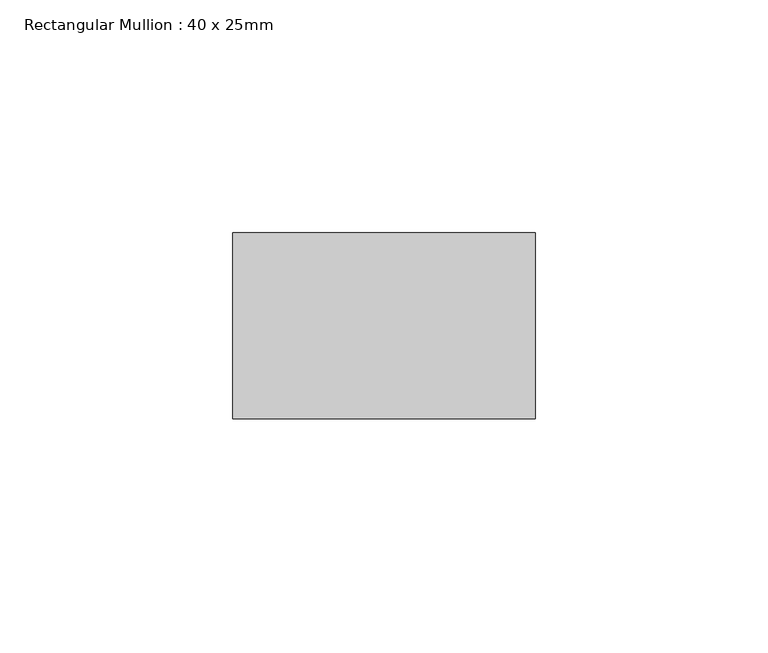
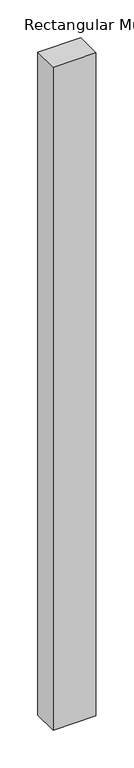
"""IFC4 building model written with IfcOpenShell, lengths in millimetres: member geometry, Rectangular Mullion : 40 x 25mm."""

from ifc_helpers import new_model, si_unit, frame, origin, place, context, project, spatial, polyline, outline, extrude, source, transform, mapped, element, save


def rectangular_mullion_40_x_25mm_0a2e3f41(model_context):
    return source(origin(), model_context, "Body", "SweptSolid", [
        extrude(outline(polyline([(40.0, -20.0), (40.0, -60.0), (-25.0, -60.0), (-25.0, -20.0), (40.0, -20.0)])), frame((0.0, 0.0, -1067.3007023), z_axis=(0.0, 0.0, 1.0), x_axis=(1.0, 0.0, 0.0)), (0.0, 0.0, 1.0), 1067.3007023),
    ])


if __name__ == "__main__":
    model = new_model("IFC4")
    model_context = context("Model", 3, world=origin())
    ifc_project = project(units=[si_unit("LENGTHUNIT", "METRE", prefix="MILLI")], contexts=[model_context])
    site = spatial("IfcSite", under=ifc_project)
    building = spatial("IfcBuilding", under=site)
    placement = place(None, origin())
    rectangular_mullion_40_x_25mm_shape = rectangular_mullion_40_x_25mm_0a2e3f41(model_context)
    element("IfcMember", 1, ObjectType="Rectangular Mullion : 40 x 25mm", at=placement, inside=building, context=model_context, shape_type="MappedRepresentation", body=[
        mapped(rectangular_mullion_40_x_25mm_shape, transform((0.0, 0.0, 0.0), x_axis=(1.0, 0.0, 0.0), y_axis=(0.0, 1.0, 0.0), z_axis=(0.0, 0.0, 1.0))),
    ])
    save(model, "model.ifc")
